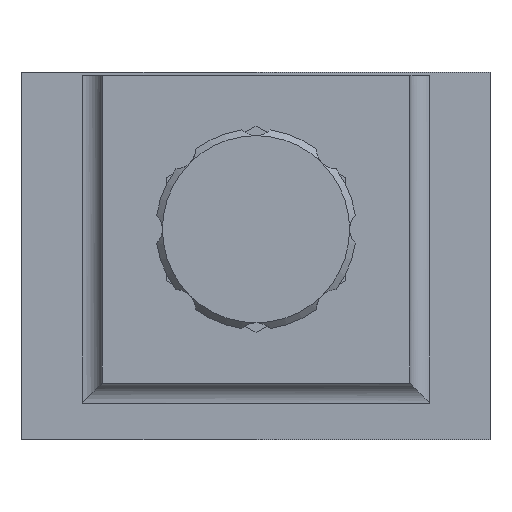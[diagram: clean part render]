
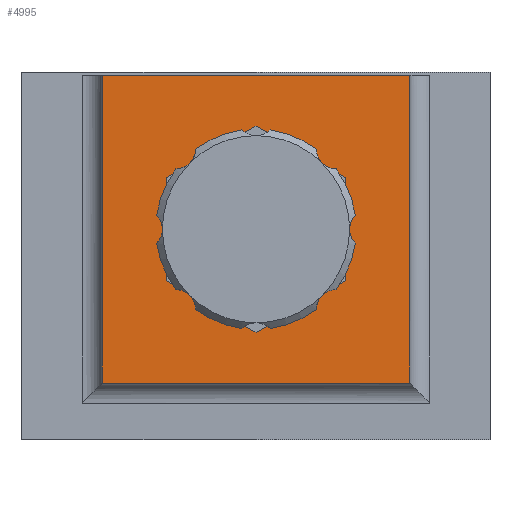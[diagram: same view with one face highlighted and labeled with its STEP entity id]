
A CAD part, left-side view. The second image highlights one B-rep face of the part: STEP entity #4995.
In plain terms, the highlighted planar face has unit normal (-1, 0, 0).
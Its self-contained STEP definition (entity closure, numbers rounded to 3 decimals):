
#96 = DIRECTION ( 'NONE',  ( 0., 0., 1. ) ) ;
#171 = VECTOR ( 'NONE', #4881, 1000. ) ;
#232 = VERTEX_POINT ( 'NONE', #4128 ) ;
#293 = DIRECTION ( 'NONE',  ( 1., 0., 0. ) ) ;
#365 = ORIENTED_EDGE ( 'NONE', *, *, #4382, .T. ) ;
#427 = LINE ( 'NONE', #2423, #171 ) ;
#533 = EDGE_CURVE ( 'NONE', #2892, #232, #427, .T. ) ;
#659 = VECTOR ( 'NONE', #4634, 1000. ) ;
#682 = CARTESIAN_POINT ( 'NONE',  ( -47.656, -8.482, 31.5 ) ) ;
#766 = VERTEX_POINT ( 'NONE', #966 ) ;
#783 = AXIS2_PLACEMENT_3D ( 'NONE', #682, #3537, #1071 ) ;
#825 = VERTEX_POINT ( 'NONE', #1001 ) ;
#966 = CARTESIAN_POINT ( 'NONE',  ( -47.656, -20.982, 31.5 ) ) ;
#972 = EDGE_CURVE ( 'NONE', #825, #232, #1363, .T. ) ;
#1001 = CARTESIAN_POINT ( 'NONE',  ( -47.656, 14.518, 8.5 ) ) ;
#1071 = DIRECTION ( 'NONE',  ( 0., 0., -1. ) ) ;
#1203 = CARTESIAN_POINT ( 'NONE',  ( -47.656, 14.518, 0. ) ) ;
#1345 = CARTESIAN_POINT ( 'NONE',  ( -47.656, 4.018, 31.5 ) ) ;
#1363 = LINE ( 'NONE', #1203, #2432 ) ;
#1394 = CARTESIAN_POINT ( 'NONE',  ( -47.656, -31.482, 8.5 ) ) ;
#1424 = EDGE_CURVE ( 'NONE', #825, #3640, #3086, .T. ) ;
#1441 = DIRECTION ( 'NONE',  ( 0., 0., 1. ) ) ;
#1442 = FACE_BOUND ( 'NONE', #4301, .T. ) ;
#1588 = ORIENTED_EDGE ( 'NONE', *, *, #533, .T. ) ;
#1737 = CARTESIAN_POINT ( 'NONE',  ( -47.656, -31.482, 0. ) ) ;
#1778 = VERTEX_POINT ( 'NONE', #1345 ) ;
#1813 = ORIENTED_EDGE ( 'NONE', *, *, #972, .F. ) ;
#2206 = DIRECTION ( 'NONE',  ( 1., 0., 0. ) ) ;
#2423 = CARTESIAN_POINT ( 'NONE',  ( -47.656, 26.518, 54.5 ) ) ;
#2432 = VECTOR ( 'NONE', #1441, 1000. ) ;
#2488 = AXIS2_PLACEMENT_3D ( 'NONE', #4776, #293, #3167 ) ;
#2520 = FACE_OUTER_BOUND ( 'NONE', #3566, .T. ) ;
#2776 = ORIENTED_EDGE ( 'NONE', *, *, #3628, .T. ) ;
#2892 = VERTEX_POINT ( 'NONE', #5088 ) ;
#2932 = ORIENTED_EDGE ( 'NONE', *, *, #1424, .T. ) ;
#3086 = LINE ( 'NONE', #4498, #659 ) ;
#3167 = DIRECTION ( 'NONE',  ( 0., 1., 0. ) ) ;
#3518 = VECTOR ( 'NONE', #96, 1000. ) ;
#3534 = EDGE_CURVE ( 'NONE', #3640, #2892, #4614, .T. ) ;
#3537 = DIRECTION ( 'NONE',  ( 1., 0., 0. ) ) ;
#3566 = EDGE_LOOP ( 'NONE', ( #3882, #1588, #1813, #2932 ) ) ;
#3628 = EDGE_CURVE ( 'NONE', #766, #1778, #4230, .T. ) ;
#3640 = VERTEX_POINT ( 'NONE', #1394 ) ;
#3882 = ORIENTED_EDGE ( 'NONE', *, *, #3534, .T. ) ;
#4128 = CARTESIAN_POINT ( 'NONE',  ( -47.656, 14.518, 54.5 ) ) ;
#4230 = CIRCLE ( 'NONE', #4431, 12.5 ) ;
#4301 = EDGE_LOOP ( 'NONE', ( #365, #2776 ) ) ;
#4382 = EDGE_CURVE ( 'NONE', #1778, #766, #4532, .T. ) ;
#4395 = PLANE ( 'NONE',  #2488 ) ;
#4431 = AXIS2_PLACEMENT_3D ( 'NONE', #4674, #2206, #5085 ) ;
#4498 = CARTESIAN_POINT ( 'NONE',  ( -47.656, 26.518, 8.5 ) ) ;
#4532 = CIRCLE ( 'NONE', #783, 12.5 ) ;
#4614 = LINE ( 'NONE', #1737, #3518 ) ;
#4634 = DIRECTION ( 'NONE',  ( 0., -1., 0. ) ) ;
#4674 = CARTESIAN_POINT ( 'NONE',  ( -47.656, -8.482, 31.5 ) ) ;
#4776 = CARTESIAN_POINT ( 'NONE',  ( -47.656, 26.518, 55. ) ) ;
#4881 = DIRECTION ( 'NONE',  ( 0., 1., 0. ) ) ;
#4995 = ADVANCED_FACE ( 'NONE', ( #1442, #2520 ), #4395, .F. ) ;
#5085 = DIRECTION ( 'NONE',  ( 0., 0., -1. ) ) ;
#5088 = CARTESIAN_POINT ( 'NONE',  ( -47.656, -31.482, 54.5 ) ) ;
